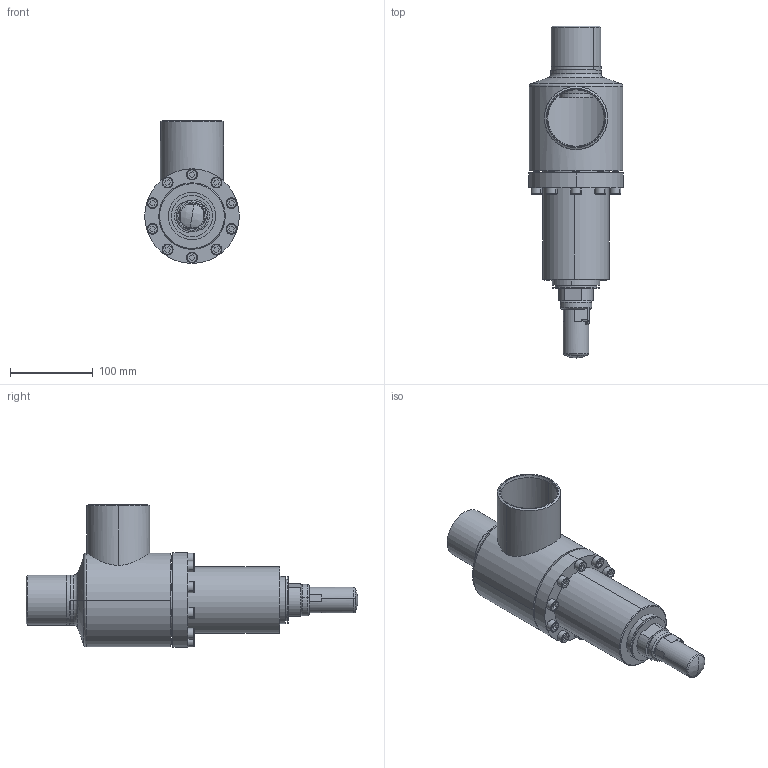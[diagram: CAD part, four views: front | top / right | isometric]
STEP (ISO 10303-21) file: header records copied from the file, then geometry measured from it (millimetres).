
FILE_DESCRIPTION (( 'STEP AP214' ), '1' );
FILE_NAME ('ORV 452AE-D15-DN50''65_R1_PS40.STEP', '2010-06-17T08:40:03', ( 'Eckhard Grams' ), ( 'AWP Kälte Klima Armaturen GmbH' ), 'SwSTEP 2.0', 'SolidWorks 2002296', '' );
FILE_SCHEMA (( 'AUTOMOTIVE_DESIGN' ));
Length unit declared in the file: millimetre
Products named in the file (11): ORV 452AE-D15-DN50''65_R1_PS40; Kappe SVA-SVU-ORV_DN10-40 (M27x1,5)_Standard; Loser-Fl44200E14-DN40-SVU_PS40_(DN40-50-SVA-ORV)_Standard; Deckel_ORV_DN40-50_Standard; Haube-ORV-DN40-50_Standard; Geh-kpl43200E15-DN50''65_R1_PS40_Standard; Rohrstutzen43200E15-DN50''65_R1_STANDARD; Geh-körper,kpl43200E15-DN50_PS40_R1_Standard; Rohrstutzen-E43200E15-DN50_R1_STANDARD; bead43200E15-Geh-kpl-PS40_Standard; Zylinderschraube-DIN912-M 8x30_M 8x 25
Assembly tree (19 placements, depth 3):
  ORV 452AE-D15-DN50''65_R1_PS40
    Zylinderschraube-DIN912-M 8x30_M 8x 25  x10
    Deckel_ORV_DN40-50_Standard
    Kappe SVA-SVU-ORV_DN10-40 (M27x1,5)_Standard
    Haube-ORV-DN40-50_Standard
    Loser-Fl44200E14-DN40-SVU_PS40_(DN40-50-SVA-ORV)_Standard
    Geh-kpl43200E15-DN50''65_R1_PS40_Standard
      bead43200E15-Geh-kpl-PS40_Standard
      Rohrstutzen43200E15-DN50''65_R1_STANDARD
      Geh-körper,kpl43200E15-DN50_PS40_R1_Standard
      Rohrstutzen-E43200E15-DN50_R1_STANDARD
Bounding box: 114 x 400 x 172 mm (x, y, z)
Volume: 820517.9 mm3; surface area: 298124.2 mm2
Topology: 18 solids, 18 shells, 907 faces, 2376 edges, 1531 vertices
Faces by surface type: cylinder 578, plane 158, cone 90, torus 45, bspline 32, sphere 4
Entity records: 24981 total; most frequent: CARTESIAN_POINT 15484, ORIENTED_EDGE 1810, DIRECTION 1773, EDGE_CURVE 905, AXIS2_PLACEMENT_3D 725, VERTEX_POINT 577, EDGE_LOOP 444, ADVANCED_FACE 376
